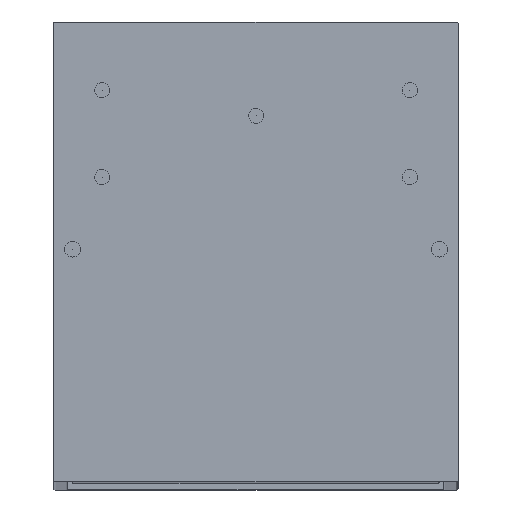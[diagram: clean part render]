
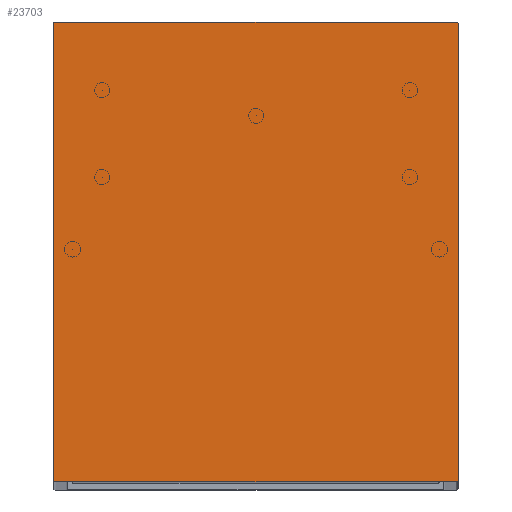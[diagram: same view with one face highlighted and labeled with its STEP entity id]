
A CAD part, top view. The second image highlights one B-rep face of the part: STEP entity #23703.
In plain terms, the highlighted planar face has unit normal (0, 0, 1).
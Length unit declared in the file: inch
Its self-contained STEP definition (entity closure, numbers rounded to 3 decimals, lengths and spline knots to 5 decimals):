
#1861=CIRCLE('',#25796,0.01969);
#1862=CIRCLE('',#25797,0.01969);
#1863=CIRCLE('',#25798,0.01969);
#1864=CIRCLE('',#25799,0.01969);
#2895=FACE_OUTER_BOUND('',#4185,.T.);
#4185=EDGE_LOOP('',(#17642,#17643,#17644,#17645,#17646,#17647,#17648,#17649));
#5875=LINE('',#39193,#7782);
#5877=LINE('',#39198,#7784);
#5880=LINE('',#39206,#7787);
#5881=LINE('',#39210,#7788);
#7782=VECTOR('',#30639,3.43307);
#7784=VECTOR('',#30643,3.90551);
#7787=VECTOR('',#30652,3.43307);
#7788=VECTOR('',#30655,3.90551);
#10085=VERTEX_POINT('',#39190);
#10086=VERTEX_POINT('',#39192);
#10087=VERTEX_POINT('',#39196);
#10088=VERTEX_POINT('',#39197);
#10089=VERTEX_POINT('',#39203);
#10090=VERTEX_POINT('',#39205);
#10091=VERTEX_POINT('',#39207);
#10092=VERTEX_POINT('',#39209);
#12855=EDGE_CURVE('',#10086,#10085,#5875,.T.);
#12857=EDGE_CURVE('',#10087,#10088,#5877,.T.);
#12860=EDGE_CURVE('',#10085,#10087,#1861,.T.);
#12861=EDGE_CURVE('',#10088,#10089,#1862,.T.);
#12862=EDGE_CURVE('',#10089,#10090,#5880,.T.);
#12863=EDGE_CURVE('',#10090,#10091,#1863,.T.);
#12864=EDGE_CURVE('',#10091,#10092,#5881,.T.);
#12865=EDGE_CURVE('',#10092,#10086,#1864,.T.);
#17642=ORIENTED_EDGE('',*,*,#12855,.T.);
#17643=ORIENTED_EDGE('',*,*,#12860,.T.);
#17644=ORIENTED_EDGE('',*,*,#12857,.T.);
#17645=ORIENTED_EDGE('',*,*,#12861,.T.);
#17646=ORIENTED_EDGE('',*,*,#12862,.T.);
#17647=ORIENTED_EDGE('',*,*,#12863,.T.);
#17648=ORIENTED_EDGE('',*,*,#12864,.T.);
#17649=ORIENTED_EDGE('',*,*,#12865,.T.);
#21538=PLANE('',#25795);
#23703=ADVANCED_FACE('',(#2895),#21538,.T.);
#25795=AXIS2_PLACEMENT_3D('',#39201,#30646,#30647);
#25796=AXIS2_PLACEMENT_3D('',#39202,#30648,#30649);
#25797=AXIS2_PLACEMENT_3D('',#39204,#30650,#30651);
#25798=AXIS2_PLACEMENT_3D('',#39208,#30653,#30654);
#25799=AXIS2_PLACEMENT_3D('',#39211,#30656,#30657);
#30639=DIRECTION('',(1.,0.,0.));
#30643=DIRECTION('',(0.,1.,0.));
#30646=DIRECTION('center_axis',(0.,0.,
1.));
#30647=DIRECTION('ref_axis',(1.,0.,0.));
#30648=DIRECTION('center_axis',(0.,0.,
1.));
#30649=DIRECTION('ref_axis',(1.,0.,0.));
#30650=DIRECTION('center_axis',(0.,0.,
1.));
#30651=DIRECTION('ref_axis',(1.,0.,0.));
#30652=DIRECTION('',(-1.,0.,0.));
#30653=DIRECTION('center_axis',(0.,0.,
1.));
#30654=DIRECTION('ref_axis',(1.,0.,0.));
#30655=DIRECTION('',(0.,-1.,0.));
#30656=DIRECTION('center_axis',(0.,0.,
1.));
#30657=DIRECTION('ref_axis',(1.,0.,0.));
#39190=CARTESIAN_POINT('',(1.72047,-0.00787,22.6378));
#39192=CARTESIAN_POINT('',(-1.7126,-0.00787,22.6378));
#39193=CARTESIAN_POINT('',(-1.7126,-0.00787,22.6378));
#39196=CARTESIAN_POINT('',(1.74016,0.01181,22.6378));
#39197=CARTESIAN_POINT('',(1.74016,3.91732,22.6378));
#39198=CARTESIAN_POINT('',(1.74016,0.01181,22.6378));
#39201=CARTESIAN_POINT('Origin',(-1.09405,-0.17272,22.6378));
#39202=CARTESIAN_POINT('Origin',(1.72047,0.01181,22.6378));
#39203=CARTESIAN_POINT('',(1.72047,3.93701,22.6378));
#39204=CARTESIAN_POINT('Origin',(1.72047,3.91732,22.6378));
#39205=CARTESIAN_POINT('',(-1.7126,3.93701,22.6378));
#39206=CARTESIAN_POINT('',(1.72047,3.93701,22.6378));
#39207=CARTESIAN_POINT('',(-1.73228,3.91732,22.6378));
#39208=CARTESIAN_POINT('Origin',(-1.7126,3.91732,22.6378));
#39209=CARTESIAN_POINT('',(-1.73228,0.01181,22.6378));
#39210=CARTESIAN_POINT('',(-1.73228,3.91732,22.6378));
#39211=CARTESIAN_POINT('Origin',(-1.7126,0.01181,22.6378));
